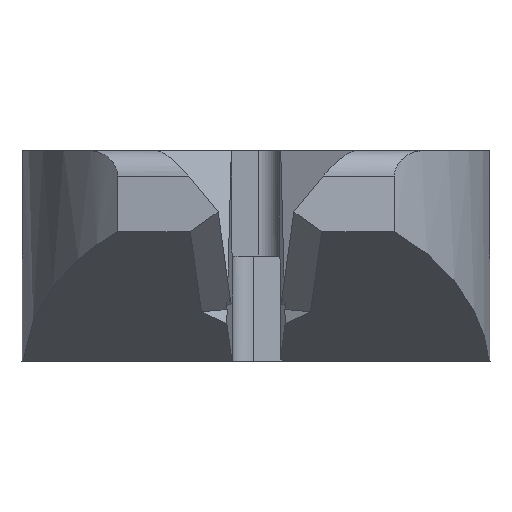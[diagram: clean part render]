
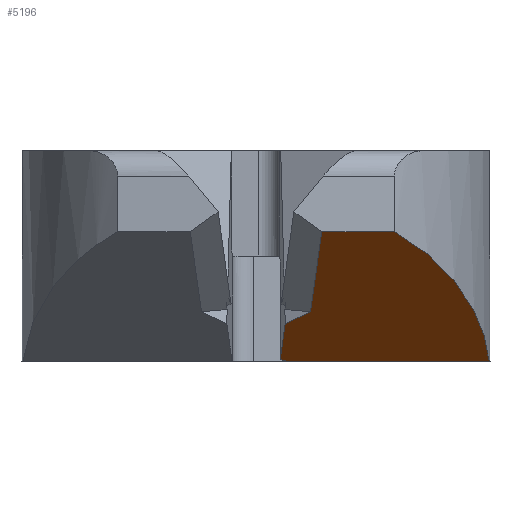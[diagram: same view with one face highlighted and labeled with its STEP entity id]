
A CAD part, left-side view. The second image highlights one B-rep face of the part: STEP entity #5196.
In plain terms, the highlighted planar face has unit normal (-0.571, -0.056, -0.819) as drawn and (-0.574, 0, -0.819) by its records, which use the part's own axes.
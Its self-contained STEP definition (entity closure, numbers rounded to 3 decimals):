
#57 = DIRECTION ( 'NONE',  ( -0.819, 0., 0.574 ) ) ;
#65 = FACE_OUTER_BOUND ( 'NONE', #1488, .T. ) ;
#66 = DIRECTION ( 'NONE',  ( 0.819, 0., -0.574 ) ) ;
#291 = ORIENTED_EDGE ( 'NONE', *, *, #1430, .F. ) ;
#295 = CARTESIAN_POINT ( 'NONE',  ( -35., -3.327, -4.798 ) ) ;
#439 = ORIENTED_EDGE ( 'NONE', *, *, #1651, .F. ) ;
#458 = CARTESIAN_POINT ( 'NONE',  ( -46., -13.066, 2.905 ) ) ;
#580 = DIRECTION ( 'NONE',  ( 0., 1., 0. ) ) ;
#623 = AXIS2_PLACEMENT_3D ( 'NONE', #5476, #3382, #66 ) ;
#828 = ORIENTED_EDGE ( 'NONE', *, *, #5022, .T. ) ;
#1161 = VERTEX_POINT ( 'NONE', #1227 ) ;
#1227 = CARTESIAN_POINT ( 'NONE',  ( -24., -25.482, -12.5 ) ) ;
#1430 = EDGE_CURVE ( 'NONE', #7183, #7137, #6370, .T. ) ;
#1488 = EDGE_LOOP ( 'NONE', ( #291, #439, #5760, #3413, #5034, #828, #6999 ) ) ;
#1651 = EDGE_CURVE ( 'NONE', #4355, #7183, #2885, .T. ) ;
#1975 = CARTESIAN_POINT ( 'NONE',  ( -24., -25.482, -12.5 ) ) ;
#2059 = LINE ( 'NONE', #295, #3540 ) ;
#2118 = EDGE_CURVE ( 'NONE', #3224, #2707, #5454, .T. ) ;
#2242 = EDGE_CURVE ( 'NONE', #1161, #4355, #3473, .T. ) ;
#2613 = VERTEX_POINT ( 'NONE', #4881 ) ;
#2662 = VECTOR ( 'NONE', #3763, 1000. ) ;
#2707 = VERTEX_POINT ( 'NONE', #6058 ) ;
#2815 = PLANE ( 'NONE',  #623 ) ;
#2885 = LINE ( 'NONE', #4262, #6969 ) ;
#3041 =( BOUNDED_CURVE ( )  B_SPLINE_CURVE ( 3, ( #6939, #3621, #5286, #1975 ),
 .UNSPECIFIED., .F., .F. ) 
 B_SPLINE_CURVE_WITH_KNOTS ( ( 4, 4 ),
 ( 0.644, 1.399 ),
 .UNSPECIFIED. ) 
 CURVE ( )  GEOMETRIC_REPRESENTATION_ITEM ( )  RATIONAL_B_SPLINE_CURVE ( ( 1., 0.953, 0.953, 1. ) ) 
 REPRESENTATION_ITEM ( '' )  );
#3224 = VERTEX_POINT ( 'NONE', #6386 ) ;
#3229 = EDGE_CURVE ( 'NONE', #3224, #1161, #3041, .T. ) ;
#3382 = DIRECTION ( 'NONE',  ( 0.574, 0., 0.819 ) ) ;
#3413 = ORIENTED_EDGE ( 'NONE', *, *, #3229, .F. ) ;
#3423 = VECTOR ( 'NONE', #57, 1000. ) ;
#3447 = CARTESIAN_POINT ( 'NONE',  ( -24.294, -0.5, -12.294 ) ) ;
#3473 = LINE ( 'NONE', #6176, #6251 ) ;
#3540 = VECTOR ( 'NONE', #6373, 1000. ) ;
#3621 = CARTESIAN_POINT ( 'NONE',  ( -40.585, -19.22, -0.887 ) ) ;
#3763 = DIRECTION ( 'NONE',  ( -0.535, -0.757, 0.375 ) ) ;
#3880 = CARTESIAN_POINT ( 'NONE',  ( -24., -1.308, -12.5 ) ) ;
#3952 = CARTESIAN_POINT ( 'NONE',  ( -24.294, -0.5, -12.294 ) ) ;
#3993 = VECTOR ( 'NONE', #580, 1000. ) ;
#4210 = EDGE_CURVE ( 'NONE', #7137, #2613, #7091, .T. ) ;
#4262 = CARTESIAN_POINT ( 'NONE',  ( -24., -1.308, -12.5 ) ) ;
#4355 = VERTEX_POINT ( 'NONE', #3880 ) ;
#4801 = DIRECTION ( 'NONE',  ( -0.333, 0.914, 0.233 ) ) ;
#4881 = CARTESIAN_POINT ( 'NONE',  ( -32.377, -3.327, -6.634 ) ) ;
#5022 = EDGE_CURVE ( 'NONE', #2707, #2613, #2059, .T. ) ;
#5034 = ORIENTED_EDGE ( 'NONE', *, *, #2118, .T. ) ;
#5196 = ADVANCED_FACE ( 'NONE', ( #65 ), #2815, .F. ) ;
#5286 = CARTESIAN_POINT ( 'NONE',  ( -32.891, -23.935, -6.275 ) ) ;
#5446 = CARTESIAN_POINT ( 'NONE',  ( -30.38, -0.5, -8.033 ) ) ;
#5454 = LINE ( 'NONE', #458, #3993 ) ;
#5476 = CARTESIAN_POINT ( 'NONE',  ( -46., -25.632, 2.905 ) ) ;
#5595 = CARTESIAN_POINT ( 'NONE',  ( -30.38, -0.5, -8.033 ) ) ;
#5760 = ORIENTED_EDGE ( 'NONE', *, *, #2242, .F. ) ;
#6058 = CARTESIAN_POINT ( 'NONE',  ( -46., -3.327, 2.905 ) ) ;
#6176 = CARTESIAN_POINT ( 'NONE',  ( -24., -2.75, -12.5 ) ) ;
#6251 = VECTOR ( 'NONE', #6729, 1000. ) ;
#6370 = LINE ( 'NONE', #3447, #3423 ) ;
#6373 = DIRECTION ( 'NONE',  ( 0.819, 0., -0.574 ) ) ;
#6386 = CARTESIAN_POINT ( 'NONE',  ( -46., -12., 2.905 ) ) ;
#6729 = DIRECTION ( 'NONE',  ( 0., 1., 0. ) ) ;
#6939 = CARTESIAN_POINT ( 'NONE',  ( -46., -12., 2.905 ) ) ;
#6969 = VECTOR ( 'NONE', #4801, 1000. ) ;
#6999 = ORIENTED_EDGE ( 'NONE', *, *, #4210, .F. ) ;
#7091 = LINE ( 'NONE', #5446, #2662 ) ;
#7137 = VERTEX_POINT ( 'NONE', #5595 ) ;
#7183 = VERTEX_POINT ( 'NONE', #3952 ) ;
